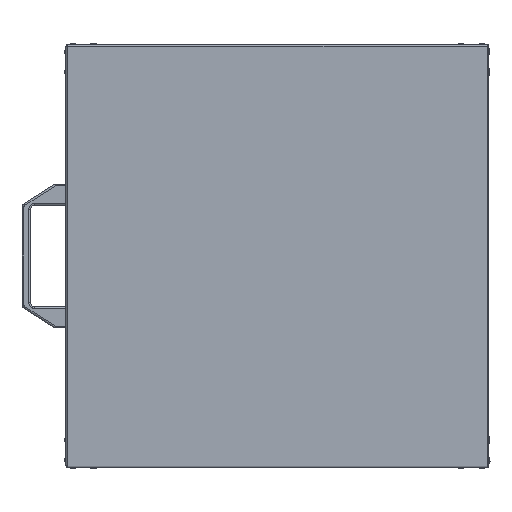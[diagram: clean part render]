
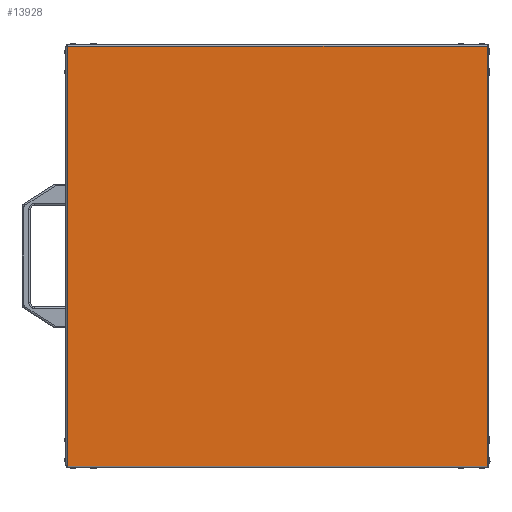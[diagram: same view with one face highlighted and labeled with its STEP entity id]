
A CAD part, front view. The second image highlights one B-rep face of the part: STEP entity #13928.
In plain terms, the highlighted planar face has unit normal (0, -1, 0).
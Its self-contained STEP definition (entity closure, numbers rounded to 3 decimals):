
#452 = CARTESIAN_POINT ( 'NONE',  ( -250., -250., -247.999 ) ) ;
#679 = EDGE_CURVE ( 'NONE', #7889, #7823, #17407, .T. ) ;
#710 = EDGE_CURVE ( 'NONE', #7883, #7889, #17449, .T. ) ;
#715 = EDGE_CURVE ( 'NONE', #7883, #7886, #17456, .T. ) ;
#719 = EDGE_CURVE ( 'NONE', #33038, #7885, #17458, .T. ) ;
#726 = EDGE_CURVE ( 'NONE', #7831, #7825, #17476, .T. ) ;
#1418 = EDGE_CURVE ( 'NONE', #7875, #7831, #29943, .T. ) ;
#1506 = EDGE_CURVE ( 'NONE', #7871, #7825, #29993, .T. ) ;
#1600 = EDGE_CURVE ( 'NONE', #33028, #7871, #30049, .T. ) ;
#1730 = EDGE_CURVE ( 'NONE', #7885, #33724, #30145, .T. ) ;
#1911 = LINE ( 'NONE', #23821, #1917 ) ;
#1917 = VECTOR ( 'NONE', #23836, 1000. ) ;
#5155 = CARTESIAN_POINT ( 'NONE',  ( -247.999, -250., -250. ) ) ;
#5156 = DIRECTION ( 'NONE',  ( 0., 0., 1. ) ) ;
#5717 = ORIENTED_EDGE ( 'NONE', *, *, #12073, .F. ) ;
#5718 = ORIENTED_EDGE ( 'NONE', *, *, #679, .T. ) ;
#5719 = ORIENTED_EDGE ( 'NONE', *, *, #710, .T. ) ;
#5720 = ORIENTED_EDGE ( 'NONE', *, *, #715, .F. ) ;
#5721 = ORIENTED_EDGE ( 'NONE', *, *, #12959, .F. ) ;
#5722 = ORIENTED_EDGE ( 'NONE', *, *, #1418, .F. ) ;
#5723 = ORIENTED_EDGE ( 'NONE', *, *, #726, .F. ) ;
#5724 = ORIENTED_EDGE ( 'NONE', *, *, #1506, .T. ) ;
#5730 = ORIENTED_EDGE ( 'NONE', *, *, #13036, .F. ) ;
#5731 = ORIENTED_EDGE ( 'NONE', *, *, #719, .F. ) ;
#5732 = ORIENTED_EDGE ( 'NONE', *, *, #1730, .F. ) ;
#5741 = ORIENTED_EDGE ( 'NONE', *, *, #1600, .T. ) ;
#7395 = CARTESIAN_POINT ( 'NONE',  ( -250., -250., -248. ) ) ;
#7396 = DIRECTION ( 'NONE',  ( -1., 0., 0. ) ) ;
#7823 = VERTEX_POINT ( 'NONE', #28291 ) ;
#7825 = VERTEX_POINT ( 'NONE', #28301 ) ;
#7831 = VERTEX_POINT ( 'NONE', #28304 ) ;
#7871 = VERTEX_POINT ( 'NONE', #28344 ) ;
#7875 = VERTEX_POINT ( 'NONE', #28348 ) ;
#7883 = VERTEX_POINT ( 'NONE', #28356 ) ;
#7885 = VERTEX_POINT ( 'NONE', #28358 ) ;
#7886 = VERTEX_POINT ( 'NONE', #28359 ) ;
#7889 = VERTEX_POINT ( 'NONE', #28362 ) ;
#8111 = DIRECTION ( 'NONE',  ( 1., 0., 0. ) ) ;
#8238 = CARTESIAN_POINT ( 'NONE',  ( -250., -250., 248. ) ) ;
#8239 = DIRECTION ( 'NONE',  ( -1., 0., 0. ) ) ;
#9157 = CARTESIAN_POINT ( 'NONE',  ( -250.059, -250., 248. ) ) ;
#9167 = DIRECTION ( 'NONE',  ( 1., 0., 0. ) ) ;
#12073 = EDGE_CURVE ( 'NONE', #33724, #7823, #1911, .T. ) ;
#12959 = EDGE_CURVE ( 'NONE', #7886, #7875, #31659, .T. ) ;
#13036 = EDGE_CURVE ( 'NONE', #33028, #33038, #31750, .T. ) ;
#13928 = ADVANCED_FACE ( 'NONE', ( #34757 ), #26849, .F. ) ;
#15438 = CARTESIAN_POINT ( 'NONE',  ( -247.999, -250., 248. ) ) ;
#15448 = CARTESIAN_POINT ( 'NONE',  ( 247.999, -250., 248. ) ) ;
#15775 = CARTESIAN_POINT ( 'NONE',  ( 248., -250., 248. ) ) ;
#17407 = LINE ( 'NONE', #452, #17410 ) ;
#17410 = VECTOR ( 'NONE', #8111, 1000. ) ;
#17449 = LINE ( 'NONE', #35069, #17452 ) ;
#17452 = VECTOR ( 'NONE', #35075, 1000. ) ;
#17456 = LINE ( 'NONE', #35085, #17460 ) ;
#17458 = LINE ( 'NONE', #35084, #17468 ) ;
#17460 = VECTOR ( 'NONE', #35081, 1000. ) ;
#17468 = VECTOR ( 'NONE', #35096, 1000. ) ;
#17476 = LINE ( 'NONE', #22500, #17479 ) ;
#17479 = VECTOR ( 'NONE', #22502, 1000. ) ;
#22500 = CARTESIAN_POINT ( 'NONE',  ( -248., -250., -248. ) ) ;
#22502 = DIRECTION ( 'NONE',  ( 0., 0., 1. ) ) ;
#23821 = CARTESIAN_POINT ( 'NONE',  ( 248., -250., 249.2 ) ) ;
#23836 = DIRECTION ( 'NONE',  ( 0., 0., -1. ) ) ;
#25126 = AXIS2_PLACEMENT_3D ( 'NONE', #26841, #26852, #26854 ) ;
#26841 = CARTESIAN_POINT ( 'NONE',  ( -250., -250., -250. ) ) ;
#26849 = PLANE ( 'NONE',  #25126 ) ;
#26852 = DIRECTION ( 'NONE',  ( 0., 1., 0. ) ) ;
#26854 = DIRECTION ( 'NONE',  ( 0., 0., 1. ) ) ;
#28291 = CARTESIAN_POINT ( 'NONE',  ( 248., -250., -248. ) ) ;
#28301 = CARTESIAN_POINT ( 'NONE',  ( -248., -250., 248. ) ) ;
#28304 = CARTESIAN_POINT ( 'NONE',  ( -248., -250., -248. ) ) ;
#28344 = CARTESIAN_POINT ( 'NONE',  ( -247.999, -250., 248. ) ) ;
#28348 = CARTESIAN_POINT ( 'NONE',  ( -247.999, -250., -248. ) ) ;
#28356 = CARTESIAN_POINT ( 'NONE',  ( 247.999, -250., -248. ) ) ;
#28358 = CARTESIAN_POINT ( 'NONE',  ( 247.999, -250., 248. ) ) ;
#28359 = CARTESIAN_POINT ( 'NONE',  ( -247.999, -250., -248. ) ) ;
#28362 = CARTESIAN_POINT ( 'NONE',  ( 247.999, -250., -248. ) ) ;
#29943 = LINE ( 'NONE', #7395, #29946 ) ;
#29946 = VECTOR ( 'NONE', #7396, 1000. ) ;
#29992 = VECTOR ( 'NONE', #8239, 1000. ) ;
#29993 = LINE ( 'NONE', #8238, #29992 ) ;
#30049 = LINE ( 'NONE', #34021, #30054 ) ;
#30054 = VECTOR ( 'NONE', #34031, 1000. ) ;
#30145 = LINE ( 'NONE', #34192, #30148 ) ;
#30148 = VECTOR ( 'NONE', #34193, 1000. ) ;
#31649 = VECTOR ( 'NONE', #5156, 1000. ) ;
#31659 = LINE ( 'NONE', #5155, #31649 ) ;
#31750 = LINE ( 'NONE', #9157, #31753 ) ;
#31753 = VECTOR ( 'NONE', #9167, 1000. ) ;
#33028 = VERTEX_POINT ( 'NONE', #15438 ) ;
#33038 = VERTEX_POINT ( 'NONE', #15448 ) ;
#33724 = VERTEX_POINT ( 'NONE', #15775 ) ;
#34021 = CARTESIAN_POINT ( 'NONE',  ( -247.999, -250., -250. ) ) ;
#34031 = DIRECTION ( 'NONE',  ( 0., 0., -1. ) ) ;
#34192 = CARTESIAN_POINT ( 'NONE',  ( -250., -250., 248. ) ) ;
#34193 = DIRECTION ( 'NONE',  ( 1., 0., 0. ) ) ;
#34757 = FACE_OUTER_BOUND ( 'NONE', #35103, .T. ) ;
#35069 = CARTESIAN_POINT ( 'NONE',  ( 247.999, -250., -250. ) ) ;
#35075 = DIRECTION ( 'NONE',  ( 0., 0., 1. ) ) ;
#35081 = DIRECTION ( 'NONE',  ( -1., 0., 0. ) ) ;
#35084 = CARTESIAN_POINT ( 'NONE',  ( 247.999, -250., -250. ) ) ;
#35085 = CARTESIAN_POINT ( 'NONE',  ( 250.059, -250., -248. ) ) ;
#35096 = DIRECTION ( 'NONE',  ( 0., 0., -1. ) ) ;
#35103 = EDGE_LOOP ( 'NONE', ( #5741, #5724, #5723, #5722, #5721, #5720, #5719, #5718, #5717, #5732, #5731, #5730 ) ) ;
